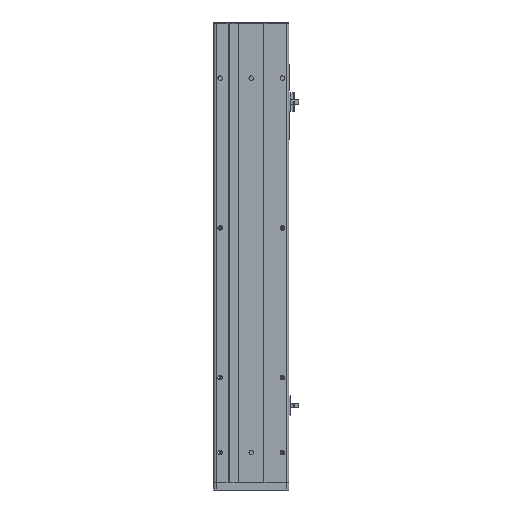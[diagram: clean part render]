
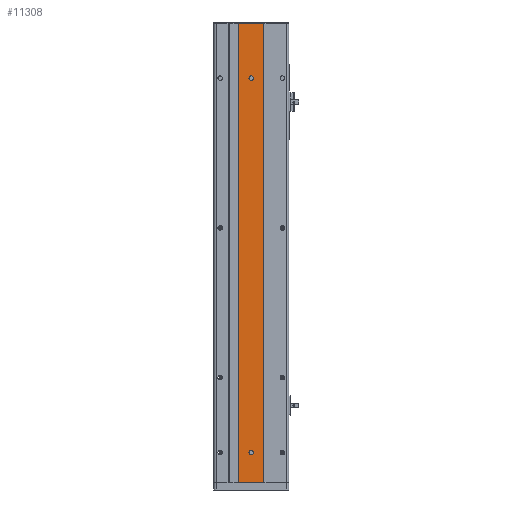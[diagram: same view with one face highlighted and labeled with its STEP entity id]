
A CAD part, front view. The second image highlights one B-rep face of the part: STEP entity #11308.
In plain terms, the highlighted planar face has unit normal (0, -1, 0).
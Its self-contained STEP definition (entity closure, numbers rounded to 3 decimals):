
#106 = CARTESIAN_POINT ( 'NONE',  ( 0., 0., 230.5 ) ) ;
#779 = DIRECTION ( 'NONE',  ( 0., 0., -1. ) ) ;
#810 = VERTEX_POINT ( 'NONE', #15205 ) ;
#850 = DIRECTION ( 'NONE',  ( 0., -1., 0. ) ) ;
#935 = CARTESIAN_POINT ( 'NONE',  ( 0., 0., -266.5 ) ) ;
#1634 = EDGE_LOOP ( 'NONE', ( #1908, #24778 ) ) ;
#1667 = DIRECTION ( 'NONE',  ( 0., 0., 1. ) ) ;
#1695 = DIRECTION ( 'NONE',  ( 0., 1., 0. ) ) ;
#1732 = PLANE ( 'NONE',  #7620 ) ;
#1774 = LINE ( 'NONE', #25805, #27403 ) ;
#1908 = ORIENTED_EDGE ( 'NONE', *, *, #31228, .F. ) ;
#1932 = CARTESIAN_POINT ( 'NONE',  ( -16.5, 0., 306.5 ) ) ;
#3064 = VECTOR ( 'NONE', #24115, 1000. ) ;
#3787 = ORIENTED_EDGE ( 'NONE', *, *, #18981, .T. ) ;
#4703 = VECTOR ( 'NONE', #5735, 1000. ) ;
#5735 = DIRECTION ( 'NONE',  ( 1., 0., 0. ) ) ;
#6530 = EDGE_CURVE ( 'NONE', #10526, #28723, #26518, .T. ) ;
#6562 = FACE_BOUND ( 'NONE', #1634, .T. ) ;
#6696 = CARTESIAN_POINT ( 'NONE',  ( -16.5, 0., 306.5 ) ) ;
#6925 = AXIS2_PLACEMENT_3D ( 'NONE', #27022, #27015, #26982 ) ;
#7140 = VERTEX_POINT ( 'NONE', #28776 ) ;
#7620 = AXIS2_PLACEMENT_3D ( 'NONE', #1932, #1695, #1667 ) ;
#8181 = EDGE_CURVE ( 'NONE', #27782, #18267, #30938, .T. ) ;
#8548 = CIRCLE ( 'NONE', #6925, 3. ) ;
#10526 = VERTEX_POINT ( 'NONE', #15127 ) ;
#10551 = LINE ( 'NONE', #24336, #3064 ) ;
#10717 = VECTOR ( 'NONE', #21725, 1000. ) ;
#11147 = AXIS2_PLACEMENT_3D ( 'NONE', #935, #850, #779 ) ;
#11308 = ADVANCED_FACE ( 'NONE', ( #6562, #20551, #19781 ), #1732, .F. ) ;
#11639 = EDGE_CURVE ( 'NONE', #18843, #7140, #23875, .T. ) ;
#11720 = CIRCLE ( 'NONE', #11147, 3. ) ;
#12043 = DIRECTION ( 'NONE',  ( 0., 0., -1. ) ) ;
#12148 = DIRECTION ( 'NONE',  ( 0., -1., 0. ) ) ;
#12155 = CARTESIAN_POINT ( 'NONE',  ( 0., 0., -266.5 ) ) ;
#14462 = AXIS2_PLACEMENT_3D ( 'NONE', #12155, #12148, #12043 ) ;
#15035 = ORIENTED_EDGE ( 'NONE', *, *, #24341, .F. ) ;
#15127 = CARTESIAN_POINT ( 'NONE',  ( 0., 0., 236.5 ) ) ;
#15205 = CARTESIAN_POINT ( 'NONE',  ( 16.5, 0., 306.5 ) ) ;
#16570 = EDGE_CURVE ( 'NONE', #28723, #10526, #8548, .T. ) ;
#18259 = ORIENTED_EDGE ( 'NONE', *, *, #16570, .F. ) ;
#18267 = VERTEX_POINT ( 'NONE', #24738 ) ;
#18741 = CARTESIAN_POINT ( 'NONE',  ( 0., 0., -263.5 ) ) ;
#18843 = VERTEX_POINT ( 'NONE', #27982 ) ;
#18981 = EDGE_CURVE ( 'NONE', #22312, #18843, #1774, .T. ) ;
#19781 = FACE_OUTER_BOUND ( 'NONE', #30650, .T. ) ;
#20551 = FACE_BOUND ( 'NONE', #28443, .T. ) ;
#21057 = ORIENTED_EDGE ( 'NONE', *, *, #6530, .F. ) ;
#21501 = ORIENTED_EDGE ( 'NONE', *, *, #24874, .F. ) ;
#21725 = DIRECTION ( 'NONE',  ( 1., 0., 0. ) ) ;
#21753 = CARTESIAN_POINT ( 'NONE',  ( 0., 0., 233.5 ) ) ;
#21792 = DIRECTION ( 'NONE',  ( 0., -1., 0. ) ) ;
#22102 = DIRECTION ( 'NONE',  ( 0., 0., -1. ) ) ;
#22312 = VERTEX_POINT ( 'NONE', #25141 ) ;
#23410 = CARTESIAN_POINT ( 'NONE',  ( -16.5, 0., -306.5 ) ) ;
#23875 = LINE ( 'NONE', #23410, #10717 ) ;
#24115 = DIRECTION ( 'NONE',  ( 0., 0., -1. ) ) ;
#24336 = CARTESIAN_POINT ( 'NONE',  ( 16.5, 0., 306.5 ) ) ;
#24341 = EDGE_CURVE ( 'NONE', #22312, #810, #30876, .T. ) ;
#24738 = CARTESIAN_POINT ( 'NONE',  ( 0., 0., -269.5 ) ) ;
#24778 = ORIENTED_EDGE ( 'NONE', *, *, #8181, .F. ) ;
#24874 = EDGE_CURVE ( 'NONE', #810, #7140, #10551, .T. ) ;
#25141 = CARTESIAN_POINT ( 'NONE',  ( -16.5, 0., 306.5 ) ) ;
#25805 = CARTESIAN_POINT ( 'NONE',  ( -16.5, 0., 306.5 ) ) ;
#26027 = DIRECTION ( 'NONE',  ( 0., 0., -1. ) ) ;
#26518 = CIRCLE ( 'NONE', #29560, 3. ) ;
#26982 = DIRECTION ( 'NONE',  ( 0., 0., -1. ) ) ;
#27015 = DIRECTION ( 'NONE',  ( 0., -1., 0. ) ) ;
#27022 = CARTESIAN_POINT ( 'NONE',  ( 0., 0., 233.5 ) ) ;
#27403 = VECTOR ( 'NONE', #26027, 1000. ) ;
#27782 = VERTEX_POINT ( 'NONE', #18741 ) ;
#27982 = CARTESIAN_POINT ( 'NONE',  ( -16.5, 0., -306.5 ) ) ;
#28443 = EDGE_LOOP ( 'NONE', ( #18259, #21057 ) ) ;
#28723 = VERTEX_POINT ( 'NONE', #106 ) ;
#28776 = CARTESIAN_POINT ( 'NONE',  ( 16.5, 0., -306.5 ) ) ;
#28914 = ORIENTED_EDGE ( 'NONE', *, *, #11639, .T. ) ;
#29560 = AXIS2_PLACEMENT_3D ( 'NONE', #21753, #21792, #22102 ) ;
#30650 = EDGE_LOOP ( 'NONE', ( #28914, #21501, #15035, #3787 ) ) ;
#30876 = LINE ( 'NONE', #6696, #4703 ) ;
#30938 = CIRCLE ( 'NONE', #14462, 3. ) ;
#31228 = EDGE_CURVE ( 'NONE', #18267, #27782, #11720, .T. ) ;
